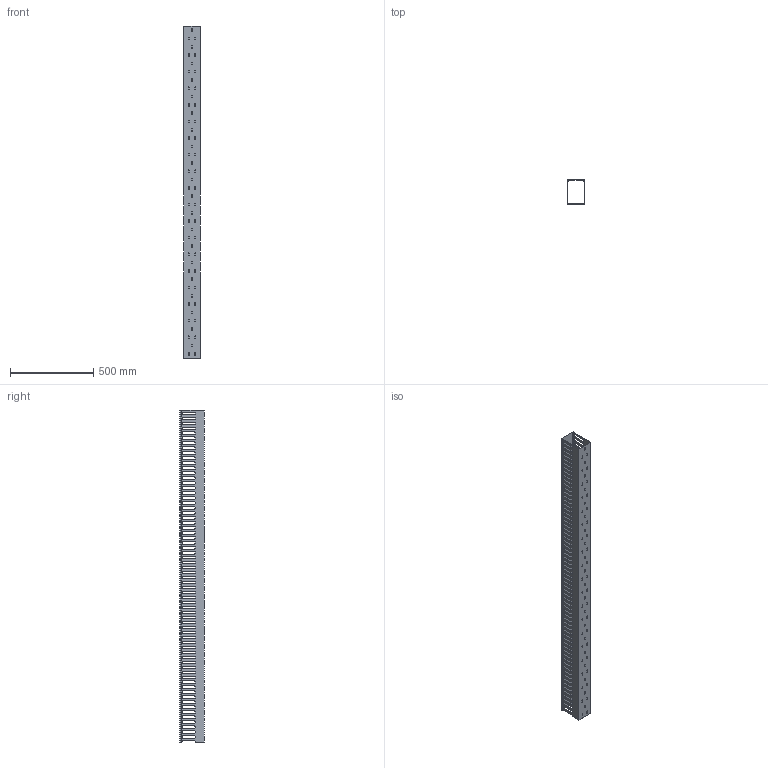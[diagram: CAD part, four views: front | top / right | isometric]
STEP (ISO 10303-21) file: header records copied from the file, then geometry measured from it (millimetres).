
FILE_DESCRIPTION (( 'STEP AP214' ), '1' );
FILE_NAME ('KD-1015-20-T.STEP', '2020-02-19T01:54:19', ( '' ), ( '' ), 'SwSTEP 2.0', 'SolidWorks 2018', '' );
FILE_SCHEMA (( 'AUTOMOTIVE_DESIGN' ));
Length unit declared in the file: millimetre
Products named in the file (3): KD-1015-20-T; KD-1015-20-T-body; KD-106-20-cover
Assembly tree (2 placements, depth 2):
  KD-1015-20-T
    KD-1015-20-T-body
    KD-106-20-cover
Bounding box: 100 x 150.17 x 2000 mm (x, y, z)
Volume: 1500024 mm3; surface area: 1860508.6 mm2
Topology: 2 solids, 2 shells, 2103 faces, 7089 edges, 4726 vertices
Faces by surface type: plane 1218, cylinder 885
Entity records: 78563 total; most frequent: ORIENTED_EDGE 14178, CARTESIAN_POINT 13923, DIRECTION 13607, EDGE_CURVE 7089, LINE 4787, VECTOR 4787, VERTEX_POINT 4726, AXIS2_PLACEMENT_3D 4410
